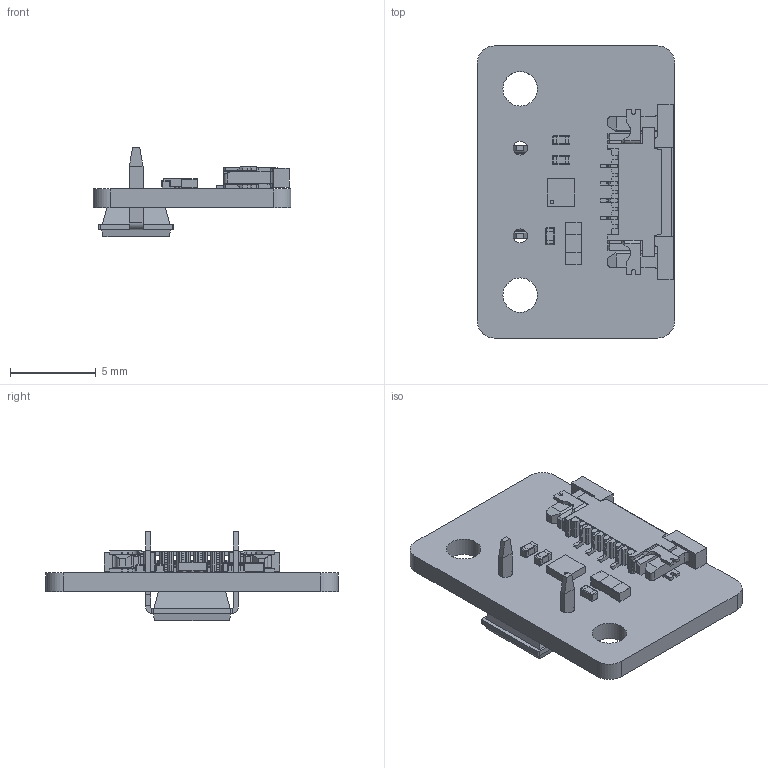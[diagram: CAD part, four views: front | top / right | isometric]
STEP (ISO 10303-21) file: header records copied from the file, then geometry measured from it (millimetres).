
FILE_DESCRIPTION(('Open CASCADE Model'),'2;1');
FILE_NAME('Open CASCADE Shape Model','2023-03-05T19:44:45',('Author'),( 'Open CASCADE'),'Open CASCADE STEP processor 6.8','Open CASCADE 6.8' ,'Unknown');
FILE_SCHEMA(('AUTOMOTIVE_DESIGN { 1 0 10303 214 1 1 1 1 }'));
Length unit declared in the file: millimetre
Products named in the file (32): PCB; Board; U1; 109607568; Open_CASCADE_STEP_translator_6.8_1.1; Body; Open_CASCADE_STEP_translator_6.8_1.2.1; ball; R1; 843217120; Mid_Body; Terminal; Open_CASCADE_STEP_translator_6.8_3.2.1; Mark; J1; 686104183422; 68x109183x22; 68x109183x22_Actuator; 68X1xx183x22_Solder_Pad2; 68X1XX183X22_Solder_Pad; 68X1XX183X22_Pin_TOP; D1; BPW34; body; footA; footB; C3; 1x0.5x0.5x0.25; base; pin; C2; C1
Assembly tree (46 placements, depth 5):
  PCB
    Board
    U1
      109607568
        Open_CASCADE_STEP_translator_6.8_1.1
        Body
          Open_CASCADE_STEP_translator_6.8_1.2.1
        ball  x9
    R1
      843217120
        Mid_Body
        Terminal  x2
          Open_CASCADE_STEP_translator_6.8_3.2.1
        Mark
    J1
      686104183422
        68x109183x22
        68x109183x22_Actuator
        68X1xx183x22_Solder_Pad2
        68X1XX183X22_Solder_Pad
        68X1XX183X22_Pin_TOP  x4
    D1
      BPW34
        body
        footA
        footB
    C3
      1x0.5x0.5x0.25
        base
        pin  x2
    C2
      1x0.5x0.5x0.25
        base
        pin  x2
    C1
      1x0.5x0.5x0.25
        base
        pin  x2
Bounding box: 11.5 x 17 x 5.2 mm (x, y, z)
Volume: 267.1 mm3; surface area: 867.9 mm2
Topology: 39 solids, 40 shells, 911 faces, 2523 edges, 1619 vertices
Faces by surface type: plane 650, cylinder 226, sphere 33, bspline 2
Full cylindrical faces by diameter (mm): 0.203 x1, 0.8 x2, 2 x2
Entity records: 23038 total; most frequent: CARTESIAN_POINT 3876, ORIENTED_EDGE 3791, DIRECTION 3597, EDGE_CURVE 1896, LINE 1615, VECTOR 1615, VERTEX_POINT 1238, AXIS2_PLACEMENT_3D 991
